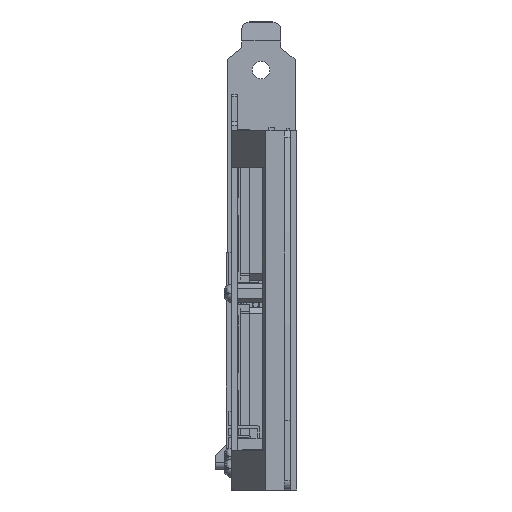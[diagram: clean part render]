
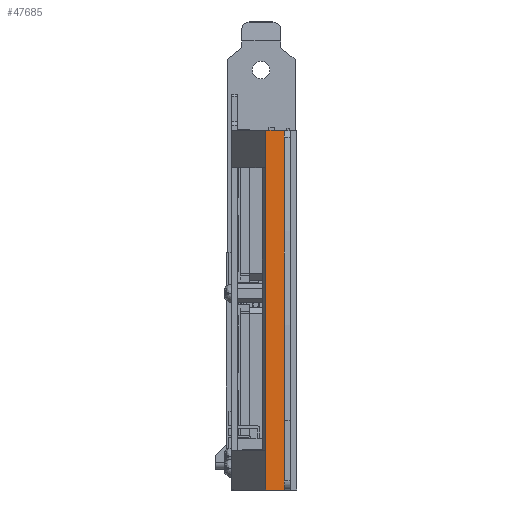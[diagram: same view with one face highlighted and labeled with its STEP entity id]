
A CAD part, front view. The second image highlights one B-rep face of the part: STEP entity #47685.
In plain terms, the highlighted planar face has unit normal (0, -1, 0).
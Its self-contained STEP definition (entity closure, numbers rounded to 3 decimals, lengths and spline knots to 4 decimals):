
#1927=DIRECTION('',(1.,0.,0.));
#1928=VECTOR('',#1927,0.198);
#1929=CARTESIAN_POINT('',(-0.311,-12.949,3.575));
#1930=LINE('',#1929,#1928);
#2020=DIRECTION('',(1.,0.,0.));
#2021=VECTOR('',#2020,0.198);
#2022=CARTESIAN_POINT('',(-0.311,-12.949,-0.25));
#2023=LINE('',#2022,#2021);
#2096=DIRECTION('',(0.,0.,1.));
#2097=VECTOR('',#2096,3.825);
#2098=CARTESIAN_POINT('',(-0.311,-12.949,-0.25));
#2099=LINE('',#2098,#2097);
#2115=DIRECTION('',(0.,0.,1.));
#2116=VECTOR('',#2115,3.825);
#2117=CARTESIAN_POINT('',(-0.113,-12.949,-0.25));
#2118=LINE('',#2117,#2116);
#46146=CARTESIAN_POINT('',(-0.311,-12.949,-0.25));
#46147=VERTEX_POINT('',#46146);
#46148=CARTESIAN_POINT('',(-0.113,-12.949,-0.25));
#46149=VERTEX_POINT('',#46148);
#46166=CARTESIAN_POINT('',(-0.311,-12.949,3.575));
#46167=VERTEX_POINT('',#46166);
#46168=CARTESIAN_POINT('',(-0.113,-12.949,3.575));
#46169=VERTEX_POINT('',#46168);
#47673=CARTESIAN_POINT('',(-0.311,-12.949,-0.25));
#47674=DIRECTION('',(0.,-1.,0.));
#47675=DIRECTION('',(1.,0.,0.));
#47676=AXIS2_PLACEMENT_3D('',#47673,#47674,#47675);
#47677=PLANE('',#47676);
#47678=ORIENTED_EDGE('',*,*,#47606,.F.);
#47679=ORIENTED_EDGE('',*,*,#47651,.T.);
#47680=ORIENTED_EDGE('',*,*,#47399,.T.);
#47682=ORIENTED_EDGE('',*,*,#47681,.F.);
#47683=EDGE_LOOP('',(#47678,#47679,#47680,#47682));
#47684=FACE_OUTER_BOUND('',#47683,.F.);
#47685=ADVANCED_FACE('',(#47684),#47677,.T.);
#47399=EDGE_CURVE('',#46167,#46169,#1930,.T.);
#47606=EDGE_CURVE('',#46147,#46149,#2023,.T.);
#47651=EDGE_CURVE('',#46147,#46167,#2099,.T.);
#47681=EDGE_CURVE('',#46149,#46169,#2118,.T.);
